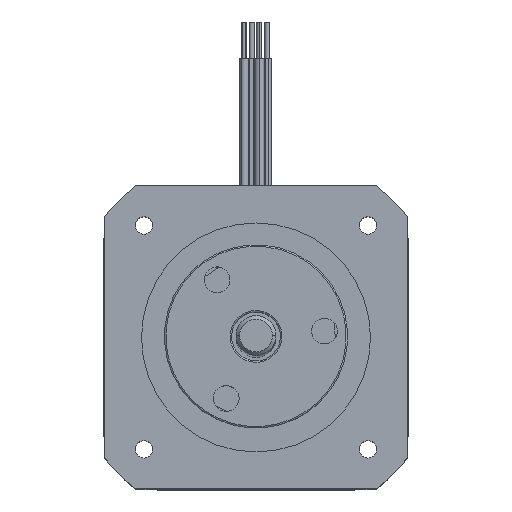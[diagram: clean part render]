
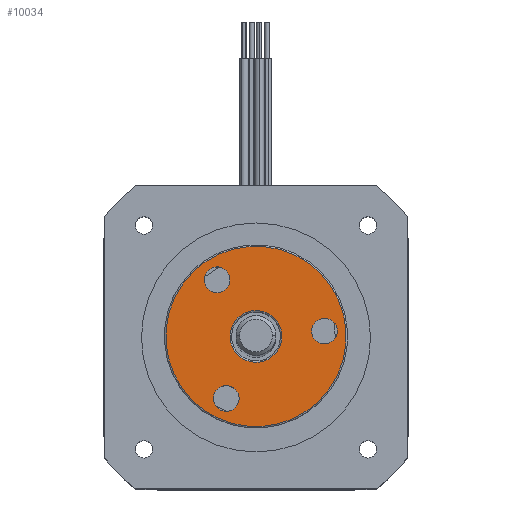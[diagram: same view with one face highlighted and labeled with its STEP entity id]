
A CAD part, top view. The second image highlights one B-rep face of the part: STEP entity #10034.
In plain terms, the highlighted planar face has unit normal (0, 0, 1).
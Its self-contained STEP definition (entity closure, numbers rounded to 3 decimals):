
#224 = CARTESIAN_POINT ( 'NONE',  ( -13.615, 4.248, 109.065 ) ) ;
#302 = CARTESIAN_POINT ( 'NONE',  ( -2.947, 11.569, 109.065 ) ) ;
#306 = CARTESIAN_POINT ( 'NONE',  ( -8.015, 13.867, 109.065 ) ) ;
#321 = CARTESIAN_POINT ( 'NONE',  ( -0.669, 18.908, 109.065 ) ) ;
#479 = CARTESIAN_POINT ( 'NONE',  ( -17.832, 18.682, 109.065 ) ) ;
#653 = CARTESIAN_POINT ( 'NONE',  ( -16.55, 2.234, 109.065 ) ) ;
#744 = CARTESIAN_POINT ( 'NONE',  ( -13.936, 9.804, 109.065 ) ) ;
#767 = CARTESIAN_POINT ( 'NONE',  ( -21.282, 4.763, 109.065 ) ) ;
#992 = CARTESIAN_POINT ( 'NONE',  ( -0.012, 13.583, 109.065 ) ) ;
#1067 = CARTESIAN_POINT ( 'NONE',  ( -14.897, 20.696, 109.065 ) ) ;
#1387 = DIRECTION ( 'NONE',  ( 0., 0., -1. ) ) ;
#1429 = DIRECTION ( 'NONE',  ( -0.825, -0.566, 0. ) ) ;
#1488 = CARTESIAN_POINT ( 'NONE',  ( -1.479, 12.576, 109.065 ) ) ;
#1496 = DIRECTION ( 'NONE',  ( 0., 0., -1. ) ) ;
#1500 = DIRECTION ( 'NONE',  ( -0.825, -0.566, 0. ) ) ;
#1502 = DIRECTION ( 'NONE',  ( -0.825, -0.566, 0. ) ) ;
#1504 = CARTESIAN_POINT ( 'NONE',  ( -10.975, 11.835, 109.065 ) ) ;
#1506 = DIRECTION ( 'NONE',  ( 0., 0., 1. ) ) ;
#1537 = CARTESIAN_POINT ( 'NONE',  ( -15.082, 3.241, 109.065 ) ) ;
#1588 = CARTESIAN_POINT ( 'NONE',  ( -16.365, 19.689, 109.065 ) ) ;
#1592 = DIRECTION ( 'NONE',  ( -0.825, -0.566, 0. ) ) ;
#1594 = DIRECTION ( 'NONE',  ( 0., 0., -1. ) ) ;
#1596 = DIRECTION ( 'NONE',  ( 0., 0., -1. ) ) ;
#1598 = CARTESIAN_POINT ( 'NONE',  ( -10.975, 11.835, 109.065 ) ) ;
#1602 = DIRECTION ( 'NONE',  ( -0.825, -0.566, 0. ) ) ;
#1609 = DIRECTION ( 'NONE',  ( 0., 0., 1. ) ) ;
#1615 = DIRECTION ( 'NONE',  ( -0.825, -0.566, 0. ) ) ;
#1624 = CARTESIAN_POINT ( 'NONE',  ( -15.082, 3.241, 109.065 ) ) ;
#1625 = DIRECTION ( 'NONE',  ( 0., 0., -1. ) ) ;
#1628 = DIRECTION ( 'NONE',  ( -0.825, -0.566, 0. ) ) ;
#1630 = DIRECTION ( 'NONE',  ( 0., 0., -1. ) ) ;
#1631 = CARTESIAN_POINT ( 'NONE',  ( -16.365, 19.689, 109.065 ) ) ;
#1637 = CARTESIAN_POINT ( 'NONE',  ( -10.975, 11.835, 109.065 ) ) ;
#1671 = DIRECTION ( 'NONE',  ( -0.825, -0.566, 0. ) ) ;
#1783 = DIRECTION ( 'NONE',  ( -0.825, -0.566, 0. ) ) ;
#1822 = CARTESIAN_POINT ( 'NONE',  ( -1.479, 12.576, 109.065 ) ) ;
#1825 = DIRECTION ( 'NONE',  ( 0., 0., -1. ) ) ;
#1829 = DIRECTION ( 'NONE',  ( -0.825, -0.566, 0. ) ) ;
#1894 = DIRECTION ( 'NONE',  ( 0., 0., -1. ) ) ;
#1898 = CARTESIAN_POINT ( 'NONE',  ( -10.975, 11.835, 109.065 ) ) ;
#3325 = EDGE_LOOP ( 'NONE', ( #6283, #6288 ) ) ;
#3360 = EDGE_LOOP ( 'NONE', ( #7167, #7164 ) ) ;
#3575 = EDGE_LOOP ( 'NONE', ( #7182, #6603 ) ) ;
#3690 = EDGE_LOOP ( 'NONE', ( #6289, #6290 ) ) ;
#3793 = EDGE_LOOP ( 'NONE', ( #6372, #6292 ) ) ;
#3973 = FACE_OUTER_BOUND ( 'NONE', #3575, .T. ) ;
#3978 = AXIS2_PLACEMENT_3D ( 'NONE', #1488, #1496, #1500 ) ;
#4024 = AXIS2_PLACEMENT_3D ( 'NONE', #1504, #1506, #1502 ) ;
#4122 = FACE_BOUND ( 'NONE', #3325, .T. ) ;
#4137 = AXIS2_PLACEMENT_3D ( 'NONE', #8102, #8121, #8366 ) ;
#4177 = AXIS2_PLACEMENT_3D ( 'NONE', #1822, #1825, #1829 ) ;
#4181 = FACE_BOUND ( 'NONE', #3793, .T. ) ;
#4213 = FACE_BOUND ( 'NONE', #3360, .T. ) ;
#4254 = FACE_BOUND ( 'NONE', #3690, .T. ) ;
#4881 = VERTEX_POINT ( 'NONE', #302 ) ;
#4889 = VERTEX_POINT ( 'NONE', #992 ) ;
#5157 = VERTEX_POINT ( 'NONE', #767 ) ;
#5158 = VERTEX_POINT ( 'NONE', #321 ) ;
#5183 = VERTEX_POINT ( 'NONE', #744 ) ;
#5258 = VERTEX_POINT ( 'NONE', #224 ) ;
#5260 = VERTEX_POINT ( 'NONE', #653 ) ;
#5278 = VERTEX_POINT ( 'NONE', #1067 ) ;
#5280 = VERTEX_POINT ( 'NONE', #479 ) ;
#5335 = VERTEX_POINT ( 'NONE', #306 ) ;
#5817 = AXIS2_PLACEMENT_3D ( 'NONE', #1588, #1594, #1592 ) ;
#5879 = AXIS2_PLACEMENT_3D ( 'NONE', #1624, #1630, #1628 ) ;
#5892 = AXIS2_PLACEMENT_3D ( 'NONE', #1631, #1625, #1615 ) ;
#5921 = AXIS2_PLACEMENT_3D ( 'NONE', #1598, #1596, #1602 ) ;
#5933 = AXIS2_PLACEMENT_3D ( 'NONE', #1898, #1894, #1783 ) ;
#6004 = AXIS2_PLACEMENT_3D ( 'NONE', #1637, #1609, #1671 ) ;
#6023 = AXIS2_PLACEMENT_3D ( 'NONE', #1537, #1387, #1429 ) ;
#6283 = ORIENTED_EDGE ( 'NONE', *, *, #11237, .T. ) ;
#6288 = ORIENTED_EDGE ( 'NONE', *, *, #11171, .T. ) ;
#6289 = ORIENTED_EDGE ( 'NONE', *, *, #10896, .T. ) ;
#6290 = ORIENTED_EDGE ( 'NONE', *, *, #10734, .T. ) ;
#6292 = ORIENTED_EDGE ( 'NONE', *, *, #11244, .T. ) ;
#6372 = ORIENTED_EDGE ( 'NONE', *, *, #11089, .T. ) ;
#6603 = ORIENTED_EDGE ( 'NONE', *, *, #11242, .T. ) ;
#7164 = ORIENTED_EDGE ( 'NONE', *, *, #10925, .T. ) ;
#7167 = ORIENTED_EDGE ( 'NONE', *, *, #11097, .T. ) ;
#7182 = ORIENTED_EDGE ( 'NONE', *, *, #10736, .T. ) ;
#8102 = CARTESIAN_POINT ( 'NONE',  ( -10.975, 11.835, 109.065 ) ) ;
#8114 = PLANE ( 'NONE',  #4137 ) ;
#8121 = DIRECTION ( 'NONE',  ( 0., 0., -1. ) ) ;
#8366 = DIRECTION ( 'NONE',  ( -0.825, -0.566, 0. ) ) ;
#10034 = ADVANCED_FACE ( 'NONE', ( #4213, #3973, #4122, #4181, #4254 ), #8114, .F. ) ;
#10175 = CIRCLE ( 'NONE', #5879, 1.78 ) ;
#10179 = CIRCLE ( 'NONE', #6023, 1.78 ) ;
#10187 = CIRCLE ( 'NONE', #5921, 3.59 ) ;
#10212 = CIRCLE ( 'NONE', #6004, 12.5 ) ;
#10218 = CIRCLE ( 'NONE', #5892, 1.78 ) ;
#10346 = CIRCLE ( 'NONE', #5817, 1.78 ) ;
#10706 = CIRCLE ( 'NONE', #5933, 3.59 ) ;
#10734 = EDGE_CURVE ( 'NONE', #4881, #4889, #11036, .T. ) ;
#10736 = EDGE_CURVE ( 'NONE', #5157, #5158, #11075, .T. ) ;
#10896 = EDGE_CURVE ( 'NONE', #4889, #4881, #10953, .T. ) ;
#10925 = EDGE_CURVE ( 'NONE', #5335, #5183, #10706, .T. ) ;
#10953 = CIRCLE ( 'NONE', #4177, 1.78 ) ;
#11036 = CIRCLE ( 'NONE', #3978, 1.78 ) ;
#11075 = CIRCLE ( 'NONE', #4024, 12.5 ) ;
#11089 = EDGE_CURVE ( 'NONE', #5278, #5280, #10346, .T. ) ;
#11097 = EDGE_CURVE ( 'NONE', #5183, #5335, #10187, .T. ) ;
#11171 = EDGE_CURVE ( 'NONE', #5260, #5258, #10175, .T. ) ;
#11237 = EDGE_CURVE ( 'NONE', #5258, #5260, #10179, .T. ) ;
#11242 = EDGE_CURVE ( 'NONE', #5158, #5157, #10212, .T. ) ;
#11244 = EDGE_CURVE ( 'NONE', #5280, #5278, #10218, .T. ) ;
